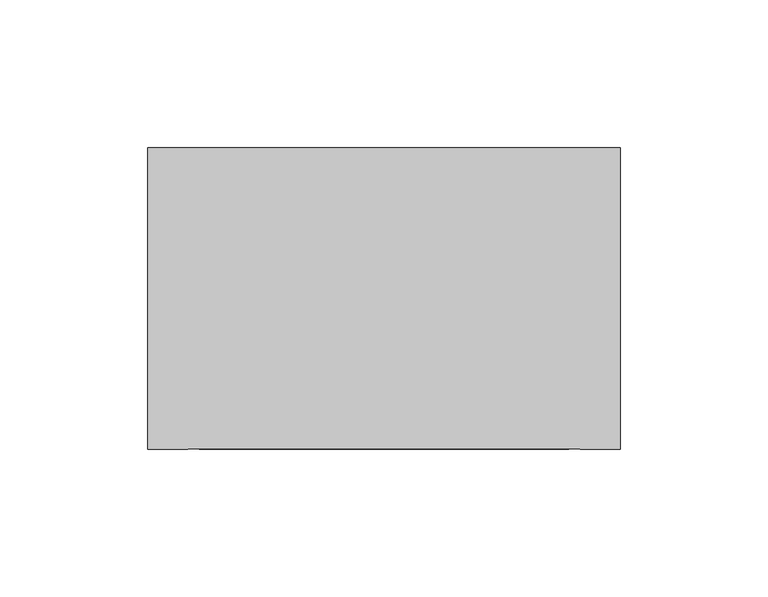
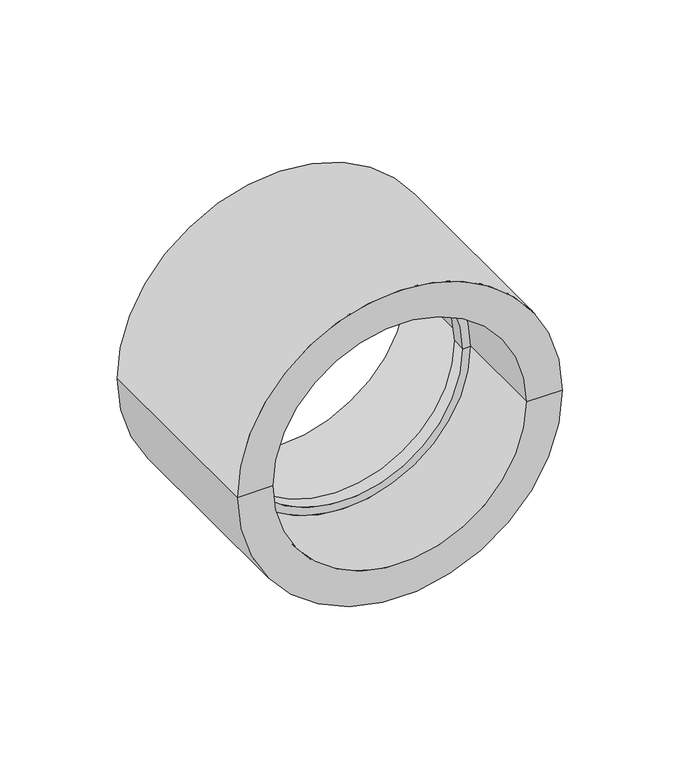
"""IFC4 building model written with IfcOpenShell, lengths in millimetres: pipe fitting geometry, NIRON RED termofusion manguito : Estándar."""

from ifc_helpers import new_model, si_unit, frame, origin, place, context, project, spatial, polyline, circle_curve, source, transform, mapped, element, save
from ifc_brep_helpers import plane_surface, cylinder_surface, revolved_surface, advanced_brep


def pipe_fitting_0efe1eae(model_context):
    return source(origin(), model_context, "Body", "AdvancedBrep", [
        advanced_brep(
        [(80.0, 102.0, 0.0), (-80.0, 102.0, 0.0), (-62.5, 102.0, 0.0), (62.5, 102.0, 0.0), (80.0, 0.0, 0.0), (-80.0, 0.0, 0.0), (62.5, 0.0, 0.0), (-62.5, 0.0, 0.0), (62.5, 47.5, 0.0), (-62.5, 47.5, 0.0), (58.5, 47.5, 0.0), (-58.5, 47.5, 0.0), (58.5, 54.5, 0.0), (-58.5, 54.5, 0.0), (62.5, 54.5, 0.0), (-62.5, 54.5, 0.0)],
        [
            (0, 1, circle_curve(frame((0.0, 102.0, 0.0), z_axis=(0.0, 1.0, 0.0), x_axis=(-1.0, 0.0, 0.0)), 80.0)),
            (1, 2),
            (2, 3, circle_curve(frame((0.0, 102.0, 0.0), z_axis=(0.0, -1.0, 0.0), x_axis=(-1.0, 0.0, 0.0)), 62.5)),
            (3, 0),
            (1, 0, circle_curve(frame((0.0, 102.0, 0.0), z_axis=(0.0, 1.0, 0.0), x_axis=(-1.0, 0.0, 0.0)), 80.0)),
            (3, 2, circle_curve(frame((0.0, 102.0, 0.0), z_axis=(0.0, -1.0, 0.0), x_axis=(-1.0, 0.0, 0.0)), 62.5)),
            (4, 5, circle_curve(frame((0.0, 0.0, 0.0), z_axis=(0.0, 1.0, 0.0), x_axis=(-1.0, 0.0, 0.0)), 80.0)),
            (5, 1),
            (0, 4),
            (5, 4, circle_curve(frame((0.0, 0.0, 0.0), z_axis=(0.0, 1.0, 0.0), x_axis=(-1.0, 0.0, 0.0)), 80.0)),
            (6, 7, circle_curve(frame((0.0, 0.0, 0.0), z_axis=(0.0, 1.0, 0.0), x_axis=(-1.0, 0.0, 0.0)), 62.5)),
            (7, 5),
            (4, 6),
            (7, 6, circle_curve(frame((0.0, 0.0, 0.0), z_axis=(0.0, 1.0, 0.0), x_axis=(-1.0, 0.0, 0.0)), 62.5)),
            (8, 9, circle_curve(frame((0.0, 47.5, 0.0), z_axis=(0.0, 1.0, 0.0), x_axis=(-1.0, 0.0, 0.0)), 62.5)),
            (9, 7),
            (6, 8),
            (9, 8, circle_curve(frame((0.0, 47.5, 0.0), z_axis=(0.0, 1.0, 0.0), x_axis=(-1.0, 0.0, 0.0)), 62.5)),
            (10, 11, circle_curve(frame((0.0, 47.5, 0.0), z_axis=(0.0, 1.0, 0.0), x_axis=(-1.0, 0.0, 0.0)), 58.5)),
            (11, 9),
            (8, 10),
            (11, 10, circle_curve(frame((0.0, 47.5, 0.0), z_axis=(0.0, 1.0, 0.0), x_axis=(-1.0, 0.0, 0.0)), 58.5)),
            (12, 13, circle_curve(frame((0.0, 54.5, 0.0), z_axis=(0.0, 1.0, 0.0), x_axis=(-1.0, 0.0, 0.0)), 58.5)),
            (13, 11),
            (10, 12),
            (13, 12, circle_curve(frame((0.0, 54.5, 0.0), z_axis=(0.0, 1.0, 0.0), x_axis=(-1.0, 0.0, 0.0)), 58.5)),
            (14, 15, circle_curve(frame((0.0, 54.5, 0.0), z_axis=(0.0, 1.0, 0.0), x_axis=(-1.0, 0.0, 0.0)), 62.5)),
            (15, 13),
            (12, 14),
            (15, 14, circle_curve(frame((0.0, 54.5, 0.0), z_axis=(0.0, 1.0, 0.0), x_axis=(-1.0, 0.0, 0.0)), 62.5)),
            (2, 15),
            (14, 3),
        ],
        [
            plane_surface(frame((0.0, 102.0, 0.0), z_axis=(0.0, 1.0, 0.0), x_axis=(-1.0, 0.0, 0.0))),
            cylinder_surface(frame((0.0, 127.0, 0.0), z_axis=(0.0, -1.0, 0.0), x_axis=(-1.0, 0.0, 0.0)), 80.0),
            plane_surface(frame((0.0, 0.0, 0.0), z_axis=(0.0, -1.0, 0.0), x_axis=(-1.0, 0.0, 0.0))),
            revolved_surface(polyline([(-62.5, 0.0, 0.0), (-62.5, 47.5, 0.0)]), (0.0, 127.0, 0.0), (0.0, -1.0, 0.0)),
            plane_surface(frame((0.0, 47.5, 0.0), z_axis=(0.0, -1.0, 0.0), x_axis=(-1.0, 0.0, 0.0))),
            revolved_surface(polyline([(-58.5, 47.5, 0.0), (-58.5, 54.5, 0.0)]), (0.0, 127.0, 0.0), (0.0, -1.0, 0.0)),
            plane_surface(frame((0.0, 54.5, 0.0), z_axis=(0.0, 1.0, 0.0), x_axis=(-1.0, 0.0, 0.0))),
            revolved_surface(polyline([(-62.5, 54.5, 0.0), (-62.5, 102.0, 0.0)]), (0.0, 127.0, 0.0), (0.0, -1.0, 0.0)),
        ],
        [
            (0, [[1, 2, 3, 4]]),
            (0, [[5, -4, 6, -2]]),
            (1, [[7, 8, -1, 9]]),
            (1, [[10, -9, -5, -8]]),
            (2, [[11, 12, -7, 13]]),
            (2, [[14, -13, -10, -12]]),
            (3, [[15, 16, -11, 17]]),
            (3, [[18, -17, -14, -16]]),
            (4, [[19, 20, -15, 21]]),
            (4, [[22, -21, -18, -20]]),
            (5, [[23, 24, -19, 25]]),
            (5, [[26, -25, -22, -24]]),
            (6, [[27, 28, -23, 29]]),
            (6, [[30, -29, -26, -28]]),
            (7, [[-3, 31, -27, 32]]),
            (7, [[-6, -32, -30, -31]]),
        ],
    ),
    ])


if __name__ == "__main__":
    model = new_model("IFC4")
    model_context = context("Model", 3, world=origin())
    ifc_project = project(units=[si_unit("LENGTHUNIT", "METRE", prefix="MILLI")], contexts=[model_context])
    site = spatial("IfcSite", under=ifc_project)
    building = spatial("IfcBuilding", under=site)
    placement = place(None, origin())
    pipe_fitting_shape = pipe_fitting_0efe1eae(model_context)
    element("IfcPipeFitting", 1, ObjectType="NIRON RED termofusion manguito : Estándar", at=placement, inside=building, context=model_context, shape_type="MappedRepresentation", body=[
        mapped(pipe_fitting_shape, transform((0.0, 0.0, 0.0), x_axis=(1.0, 0.0, 0.0), y_axis=(0.0, 1.0, 0.0), z_axis=(0.0, 0.0, 1.0))),
    ])
    save(model, "model.ifc")
